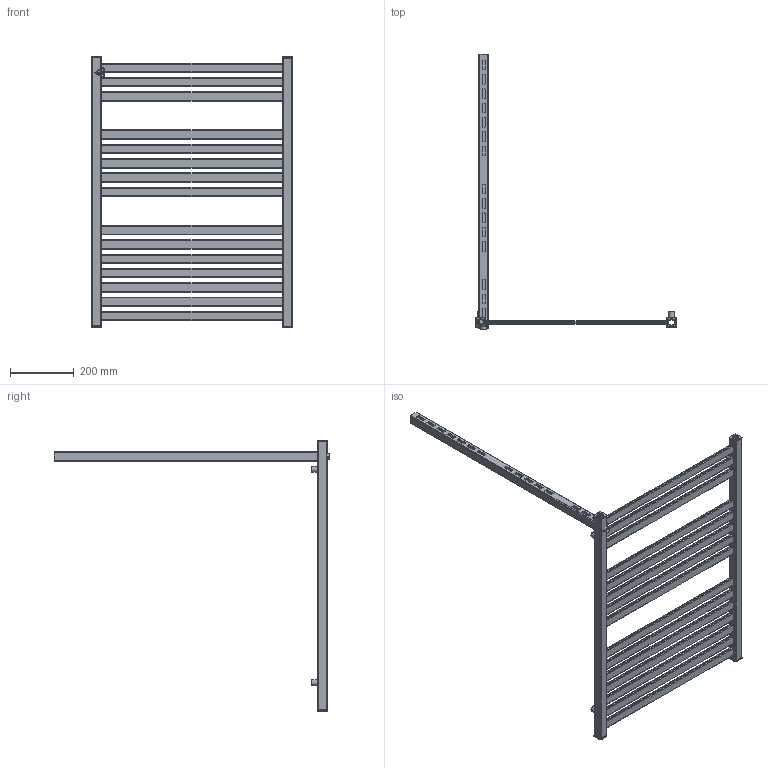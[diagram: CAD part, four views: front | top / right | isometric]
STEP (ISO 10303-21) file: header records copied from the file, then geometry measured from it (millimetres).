
FILE_DESCRIPTION( ( 'Unknown' ), '1' );
FILE_NAME( 'D:/Alplast sp. j/Witryna zespoBu - Projekty/Archiwum/Grzejniki Archiwum/Projekty/STANDARD/AK-EP/AK3-600EP.stp', 'Unknown', ( 'Unknown' ), ( 'Unknown' ), 'PSStep 10.1', 'Unknown', ' ' );
FILE_SCHEMA( ( 'AUTOMOTIVE_DESIGN { 1 0 10303 214 1 1 1 1 }' ) );
Length unit declared in the file: millimetre
Products named in the file (5): Assem1; zaslepka kwadrat otwor; mocowanie; kana³  poziomy 30x10  600; AK3-EPEL
Bounding box: 630 x 864 x 850.13 mm (x, y, z)
Volume: 1410355.7 mm3; surface area: 1888174.5 mm2
Topology: 29 solids, 29 shells, 778 faces, 2130 edges, 1420 vertices
Faces by surface type: plane 440, cylinder 328, torus 10
Full cylindrical faces by diameter (mm): 16 x5, 18 x5, 18.631 x5, 23 x5
Entity records: 7564 total; most frequent: DIRECTION 1084, CARTESIAN_POINT 1046, ORIENTED_EDGE 1004, EDGE_CURVE 502, AXIS2_PLACEMENT_3D 376, VERTEX_POINT 338, LINE 332, VECTOR 332
